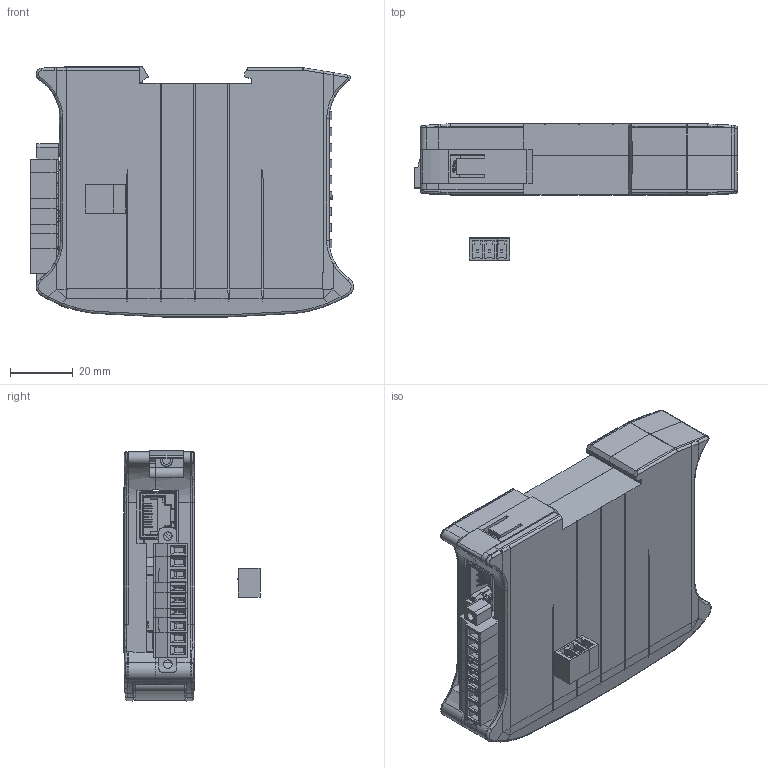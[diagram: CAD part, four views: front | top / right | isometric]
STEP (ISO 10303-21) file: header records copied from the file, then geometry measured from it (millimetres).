
FILE_DESCRIPTION( ( 'Unknown' ), '1' );
FILE_NAME( 'C:/Users/CAD/Documents/Projekte/EMS Produkte/EtherCAN_FD-S_RMD/EtherCAN_FD-S_RMD.stp', 'Unknown', ( 'el' ), ( 'EMS Dr. Thomas Wuensche' ), 'PSStep 14.0', 'Unknown', ' ' );
FILE_SCHEMA( ( 'AUTOMOTIVE_DESIGN { 1 0 10303 214 1 1 1 1 }' ) );
Length unit declared in the file: millimetre
Products named in the file (25): HRO_TYPE-C-31-M-12; Assem1; 65618; 65618_06; 65618_01; 65618_04; 65618_09; 65618_05; 65618_02; 65618_03; 65618_07; 2-pin; ConPins; PcbPins; Mold; Frame; 3-pin; C-1116503-2; Platine; LEDLWL381; Label; 25_620_3253_0; 25_620_3353_0
Bounding box: 102.75 x 43.33 x 79.6 mm (x, y, z)
Volume: 162896.2 mm3; surface area: 200728.6 mm2
Topology: 60 solids, 60 shells, 9898 faces, 26506 edges, 17073 vertices
Faces by surface type: plane 5752, bspline 1845, cylinder 1752, torus 204, cone 177, sphere 156, extrusion 9, revolution 3
Full cylindrical faces by diameter (mm): 0.24 x6, 0.35 x6, 0.5 x6, 0.75 x6, 1 x12, 1.3 x6, 2.3 x6, 3 x6, 3.1 x15
Entity records: 172567 total; most frequent: CARTESIAN_POINT 35580, ORIENTED_EDGE 20026, DIRECTION 14756, EDGE_CURVE 10013, PRESENTATION_STYLE_ASSIGNMENT 7651, COLOUR_RGB 7651, STYLED_ITEM 7505, VERTEX_POINT 6563
